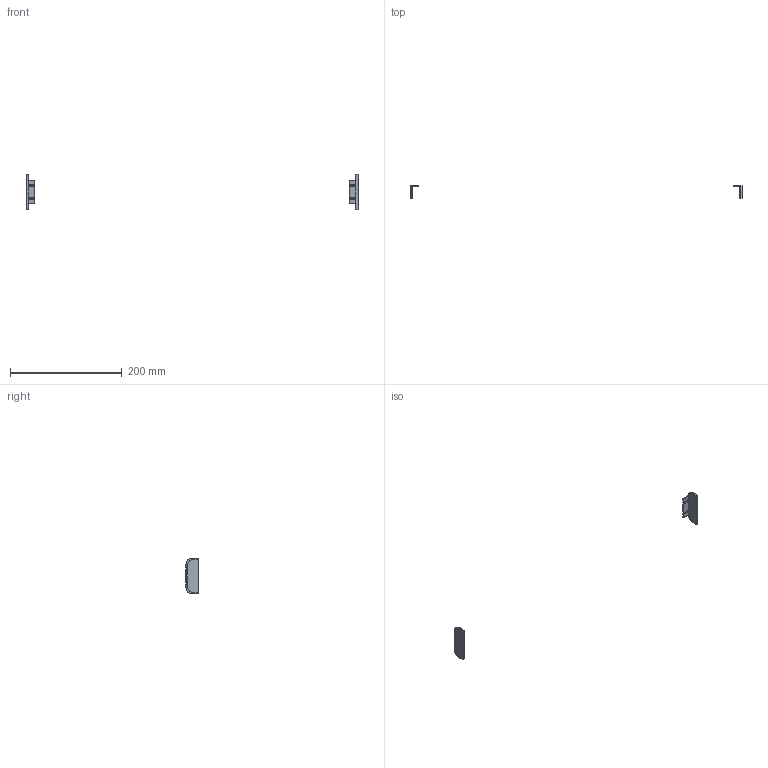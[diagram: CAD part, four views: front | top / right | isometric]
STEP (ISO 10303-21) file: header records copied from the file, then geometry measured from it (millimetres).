
FILE_DESCRIPTION( ( 'STEP AP214' ), '1' );
FILE_NAME( 'C:/Users/swati/Desktop/10-03-2016/9210140/9210140.stp', ' ', ( ' ' ), ( ' ' ), 'PSStep 15.0.47', 'PARTsolutions', ' ' );
FILE_SCHEMA( ( 'AUTOMOTIVE_DESIGN { 1 0 10303 214 1 1 1 1 }' ) );
Length unit declared in the file: millimetre
Products named in the file (3): 95 ; _
Assembly tree (2 placements, depth 2):
  95 
    _
    _
Bounding box: 594 x 23.02 x 64 mm (x, y, z)
Volume: 11225.1 mm3; surface area: 8996.6 mm2
Topology: 2 solids, 2 shells, 76 faces, 212 edges, 140 vertices
Faces by surface type: plane 56, cylinder 20
Entity records: 3090 total; most frequent: CARTESIAN_POINT 431, ORIENTED_EDGE 424, DIRECTION 414, EDGE_CURVE 212, LINE 168, VECTOR 168, VERTEX_POINT 140, AXIS2_PLACEMENT_3D 123
